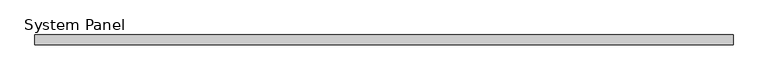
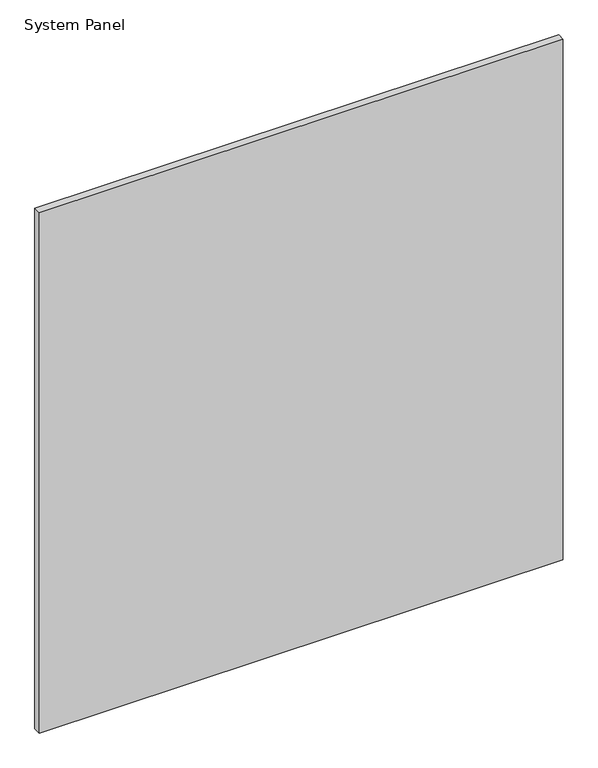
"""IFC4 building model written with IfcOpenShell, lengths in millimetres: plate geometry, System Panel : Panel_Glazed_Generic Showcase_30mm."""

from ifc_helpers import new_model, si_unit, origin, origin_with_axes, place, context, project, spatial, polyline, outline, extrude, source, transform, mapped, element, save


def system_panel_b9692cb7(model_context):
    return source(origin(), model_context, "Body", "SweptSolid", [
        extrude(outline(polyline([(1048.0030369, 0.0), (-1048.0030369, 0.0), (-1048.0030369, 30.0), (1048.0030369, 30.0), (1048.0030369, 0.0)])), origin_with_axes(), (0.0, 0.0, 1.0), 2200.0),
    ])


if __name__ == "__main__":
    model = new_model("IFC4")
    model_context = context("Model", 3, world=origin())
    ifc_project = project(units=[si_unit("LENGTHUNIT", "METRE", prefix="MILLI")], contexts=[model_context])
    site = spatial("IfcSite", under=ifc_project)
    building = spatial("IfcBuilding", under=site)
    placement = place(None, origin())
    system_panel_shape = system_panel_b9692cb7(model_context)
    element("IfcPlate", 1, ObjectType="System Panel : Panel_Glazed_Generic Showcase_30mm", at=placement, inside=building, context=model_context, shape_type="MappedRepresentation", body=[
        mapped(system_panel_shape, transform((0.0, 0.0, 0.0), x_axis=(1.0, 0.0, 0.0), y_axis=(0.0, 1.0, 0.0), z_axis=(0.0, 0.0, 1.0))),
    ])
    save(model, "model.ifc")
